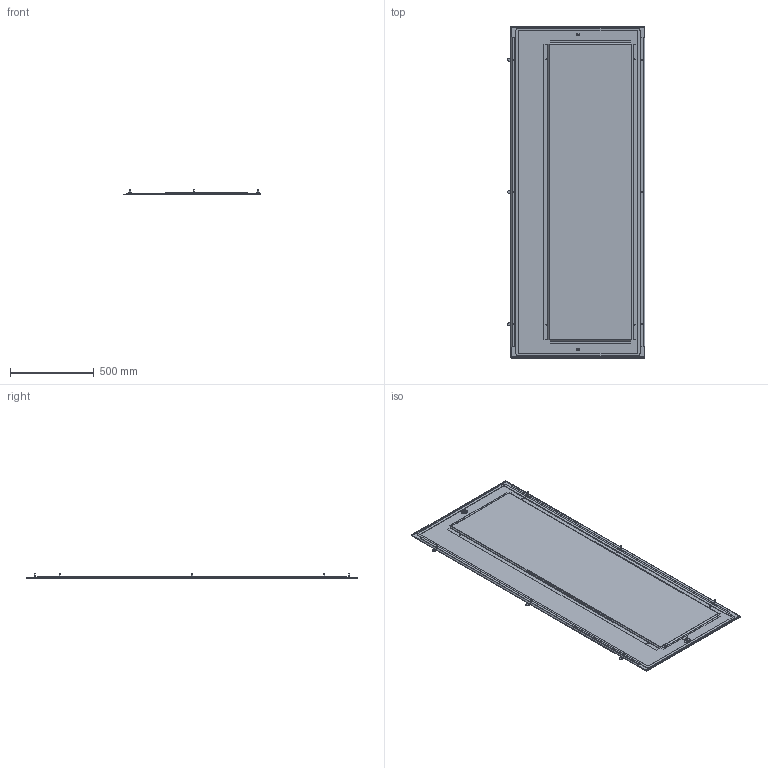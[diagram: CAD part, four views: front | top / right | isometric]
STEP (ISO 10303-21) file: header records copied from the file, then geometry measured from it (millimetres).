
FILE_DESCRIPTION((''),'2;1');
FILE_NAME('SB106065_3D_COLOUR','2013-07-25T',('SESA214371'),('Schneider-Electric'),'PRO/ENGINEER BY PARAMETRIC TECHNOLOGY CORPORATION, 2011410','PRO/ENGINEER BY PARAMETRIC TECHNOLOGY CORPORATION, 2011410','');
FILE_SCHEMA(('CONFIG_CONTROL_DESIGN'));
Length unit declared in the file: millimetre
Products named in the file (1): SB106065_3D_COLOUR
Bounding box: 820.09 x 1977 x 35 mm (x, y, z)
Volume: 2789945.2 mm3; surface area: 5295575.4 mm2
Topology: 1 solids, 1 shells, 432 faces, 1114 edges, 740 vertices
Faces by surface type: plane 304, cylinder 112, extrusion 16
Entity records: 13430 total; most frequent: CARTESIAN_POINT 2622, ORIENTED_EDGE 2228, DIRECTION 2154, EDGE_CURVE 1114, VECTOR 854, LINE 838, VERTEX_POINT 740, AXIS2_PLACEMENT_3D 650
